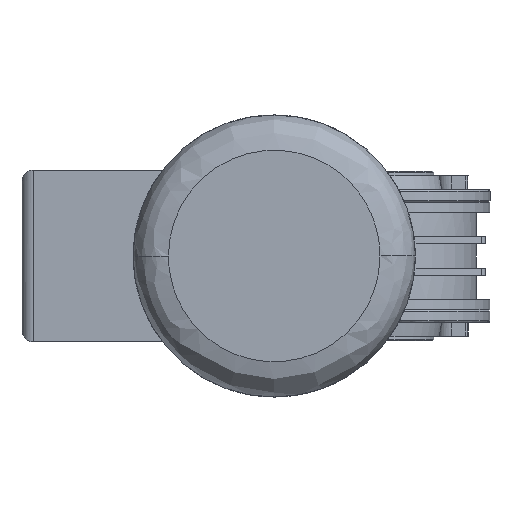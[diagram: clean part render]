
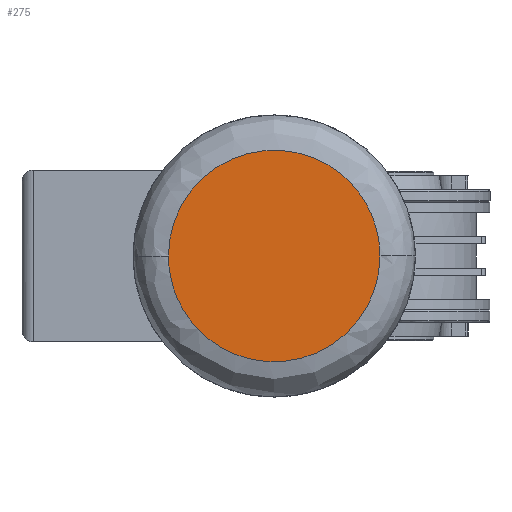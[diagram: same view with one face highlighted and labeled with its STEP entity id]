
A CAD part, front view. The second image highlights one B-rep face of the part: STEP entity #275.
In plain terms, the highlighted planar face has unit normal (0, -1, 0) as drawn and (0, 0, 1) by its records, which use the part's own axes.
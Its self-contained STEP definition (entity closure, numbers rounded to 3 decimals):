
#275 = ADVANCED_FACE ( 'NONE', ( #3753 ), #10528, .F. ) ;
#1584 = CARTESIAN_POINT ( 'NONE',  ( 0., -46.125, 204. ) ) ;
#2563 = ORIENTED_EDGE ( 'NONE', *, *, #11564, .F. ) ;
#2580 = CARTESIAN_POINT ( 'NONE',  ( 0., -46.125, 204. ) ) ;
#3220 = CARTESIAN_POINT ( 'NONE',  ( 92.25, -46.125, 204. ) ) ;
#3567 = DIRECTION ( 'NONE',  ( 0., 1., 0. ) ) ;
#3753 = FACE_OUTER_BOUND ( 'NONE', #7343, .T. ) ;
#4965 =( BOUNDED_CURVE ( )  B_SPLINE_CURVE ( 3, ( #1584, #7241, #12912, #15875 ),
 .UNSPECIFIED., .F., .T. ) 
 B_SPLINE_CURVE_WITH_KNOTS ( ( 4, 4 ),
 ( 0., 0.5 ),
 .UNSPECIFIED. ) 
 CURVE ( )  GEOMETRIC_REPRESENTATION_ITEM ( )  RATIONAL_B_SPLINE_CURVE ( ( 1., 0.333, 0.333, 1. ) ) 
 REPRESENTATION_ITEM ( '' )  );
#6296 = CARTESIAN_POINT ( 'NONE',  ( 0., 46.125, 204. ) ) ;
#7241 = CARTESIAN_POINT ( 'NONE',  ( -92.25, -46.125, 204. ) ) ;
#7343 = EDGE_LOOP ( 'NONE', ( #2563, #11629 ) ) ;
#8884 = AXIS2_PLACEMENT_3D ( 'NONE', #9220, #10616, #3567 ) ;
#9220 = CARTESIAN_POINT ( 'NONE',  ( 0., 0., 204. ) ) ;
#9358 = VERTEX_POINT ( 'NONE', #6296 ) ;
#10528 = PLANE ( 'NONE',  #8884 ) ;
#10616 = DIRECTION ( 'NONE',  ( 0., 0., -1. ) ) ;
#10724 = VERTEX_POINT ( 'NONE', #2580 ) ;
#10957 = EDGE_CURVE ( 'NONE', #9358, #10724, #13744, .T. ) ;
#11564 = EDGE_CURVE ( 'NONE', #10724, #9358, #4965, .T. ) ;
#11629 = ORIENTED_EDGE ( 'NONE', *, *, #10957, .F. ) ;
#11929 = CARTESIAN_POINT ( 'NONE',  ( 92.25, 46.125, 204. ) ) ;
#12912 = CARTESIAN_POINT ( 'NONE',  ( -92.25, 46.125, 204. ) ) ;
#13744 =( BOUNDED_CURVE ( )  B_SPLINE_CURVE ( 3, ( #15939, #11929, #3220, #17423 ),
 .UNSPECIFIED., .F., .F. ) 
 B_SPLINE_CURVE_WITH_KNOTS ( ( 4, 4 ),
 ( 0.5, 1. ),
 .UNSPECIFIED. ) 
 CURVE ( )  GEOMETRIC_REPRESENTATION_ITEM ( )  RATIONAL_B_SPLINE_CURVE ( ( 1., 0.333, 0.333, 1. ) ) 
 REPRESENTATION_ITEM ( '' )  );
#15875 = CARTESIAN_POINT ( 'NONE',  ( 0., 46.125, 204. ) ) ;
#15939 = CARTESIAN_POINT ( 'NONE',  ( 0., 46.125, 204. ) ) ;
#17423 = CARTESIAN_POINT ( 'NONE',  ( 0., -46.125, 204. ) ) ;
